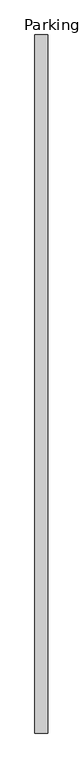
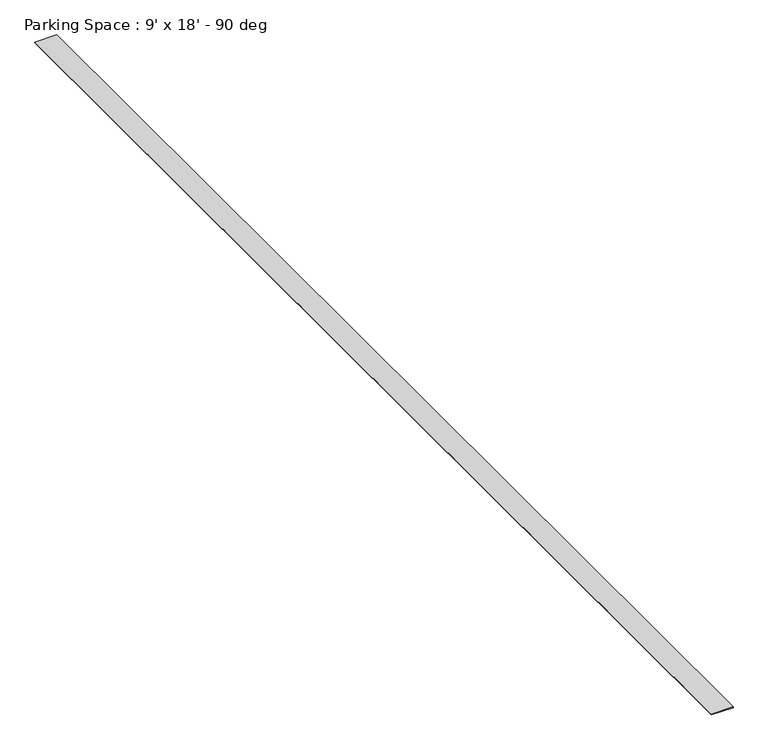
"""IFC4 building model written with IfcOpenShell, lengths in millimetres: proxy geometry, Parking Space : 9' x 18' - 90 deg."""

from ifc_helpers import new_model, si_unit, origin, origin_with_axes, place, context, project, spatial, polyline, outline, extrude, source, transform, mapped, element, save


def parking_space_9_x_18_90_deg_9fe051ab(model_context):
    return source(origin(), model_context, "Body", "SweptSolid", [
        extrude(outline(polyline([(-50.8, 0.0), (-50.8, 5486.4), (50.8, 5486.4), (50.8, 0.0), (-50.8, 0.0)])), origin_with_axes(), (0.0, 0.0, 1.0), 3.175),
    ])


if __name__ == "__main__":
    model = new_model("IFC4")
    model_context = context("Model", 3, world=origin())
    ifc_project = project(units=[si_unit("LENGTHUNIT", "METRE", prefix="MILLI")], contexts=[model_context])
    site = spatial("IfcSite", under=ifc_project)
    building = spatial("IfcBuilding", under=site)
    placement = place(None, origin())
    parking_space_9_x_18_90_deg_shape = parking_space_9_x_18_90_deg_9fe051ab(model_context)
    element("IfcBuildingElementProxy", 1, Name="Parking Space : 9' x 18' - 90 deg", ObjectType="Parking Space : 9' x 18' - 90 deg", at=placement, inside=building, context=model_context, shape_type="MappedRepresentation", body=[
        mapped(parking_space_9_x_18_90_deg_shape, transform((0.0, 0.0, 0.0), x_axis=(1.0, 0.0, 0.0), y_axis=(0.0, 1.0, 0.0), z_axis=(0.0, 0.0, 1.0))),
    ])
    save(model, "model.ifc")
